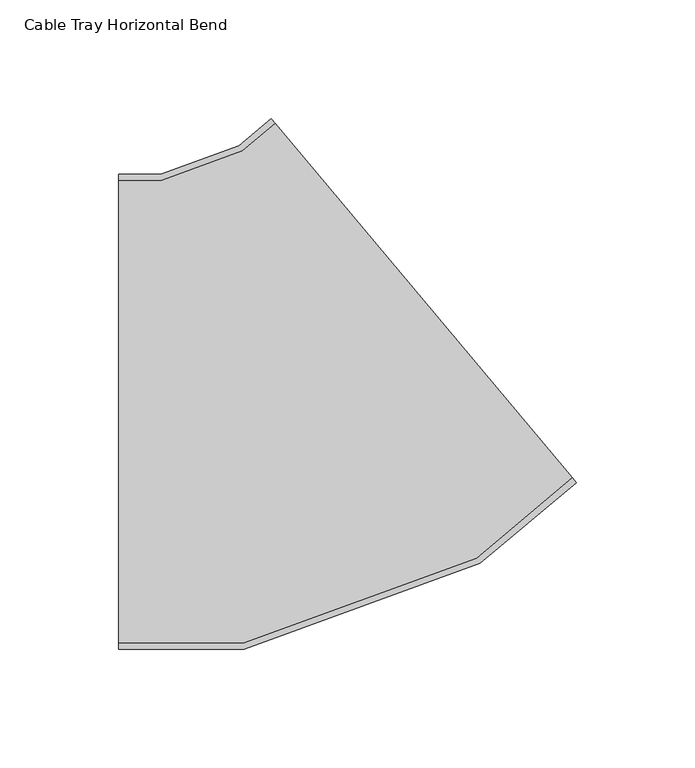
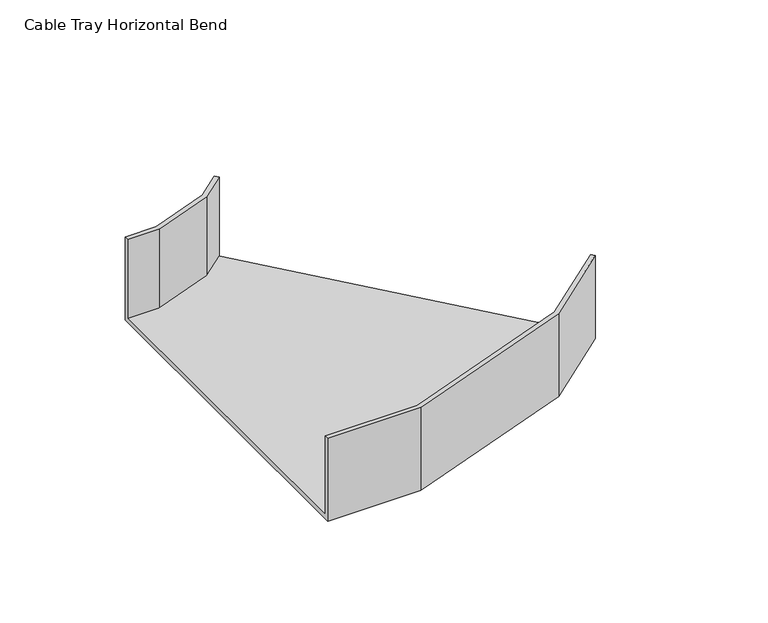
"""IFC4 building model written with IfcOpenShell, lengths in millimetres: cable carrier fitting geometry, Cable Tray Horizontal Bend : ELEC_SUB_CT_N2402."""

from ifc_helpers import new_model, si_unit, origin, place, context, project, spatial, faceted_brep, source, transform, mapped, element, save


def cable_tray_horizontal_bend_5fd04952(model_context):
    return source(origin(), model_context, "Body", "Brep", [
        faceted_brep([(-72.7940469, -100.0, -25.0), (-72.7940469, -100.0, 25.0), (-72.7940469, -97.46, 25.0), (-72.7940469, -97.46, -22.46), (-72.7940469, 97.46, -22.46), (-72.7940469, 97.46, 25.0), (-72.7940469, 100.0, 25.0), (-72.7940469, 100.0, -25.0), (120.0422361, -29.8133329, -25.0), (-8.5152859, 123.3955557, -25.0), (-8.5152859, 123.3955557, 25.0), (-6.8826054, 121.4498028, 25.0), (-6.8826054, 121.4498028, -22.46), (118.4095555, -27.8675801, -22.46), (118.4095555, -27.8675801, 25.0), (120.0422361, -29.8133329, 25.0), (-19.8959526, -100.0, -25.0), (-19.8959526, -100.0, 25.0), (79.5199449, -63.8155725, 25.0), (78.2303531, -61.581934, 25.0), (-20.3438232, -97.46, 25.0), (-20.3438232, -97.46, -22.46), (78.2303531, -61.581934, -22.46), (-20.7331245, 109.8278373, -22.46), (-54.7134783, 97.46, -22.46), (-54.7134783, 97.46, 25.0), (-20.7331245, 109.8278373, 25.0), (-22.0227163, 112.0614758, 25.0), (-55.1613488, 100.0, 25.0), (-55.1613488, 100.0, -25.0), (-22.0227163, 112.0614758, -25.0), (79.5199449, -63.8155725, -25.0)], [[[0, 1, 2, 3, 4, 5, 6, 7]], [[8, 9, 10, 11, 12, 13, 14, 15]], [[1, 0, 16, 17]], [[2, 1, 17, 18, 15, 14, 19, 20]], [[3, 2, 20, 21]], [[4, 3, 21, 22, 13, 12, 23, 24]], [[5, 4, 24, 25]], [[6, 5, 25, 26, 11, 10, 27, 28]], [[7, 6, 28, 29]], [[0, 7, 29, 30, 9, 8, 31, 16]], [[17, 16, 31, 18]], [[21, 20, 19, 22]], [[25, 24, 23, 26]], [[29, 28, 27, 30]], [[18, 31, 8, 15]], [[22, 19, 14, 13]], [[26, 23, 12, 11]], [[30, 27, 10, 9]]]),
    ])


if __name__ == "__main__":
    model = new_model("IFC4")
    model_context = context("Model", 3, world=origin())
    ifc_project = project(units=[si_unit("LENGTHUNIT", "METRE", prefix="MILLI")], contexts=[model_context])
    site = spatial("IfcSite", under=ifc_project)
    building = spatial("IfcBuilding", under=site)
    placement = place(None, origin())
    cable_tray_horizontal_bend_shape = cable_tray_horizontal_bend_5fd04952(model_context)
    element("IfcCableCarrierFitting", 1, ObjectType="Cable Tray Horizontal Bend : ELEC_SUB_CT_N2402", at=placement, inside=building, context=model_context, shape_type="MappedRepresentation", body=[
        mapped(cable_tray_horizontal_bend_shape, transform((0.0, 0.0, 0.0), x_axis=(1.0, 0.0, 0.0), y_axis=(0.0, 1.0, 0.0), z_axis=(0.0, 0.0, 1.0))),
    ])
    save(model, "model.ifc")
